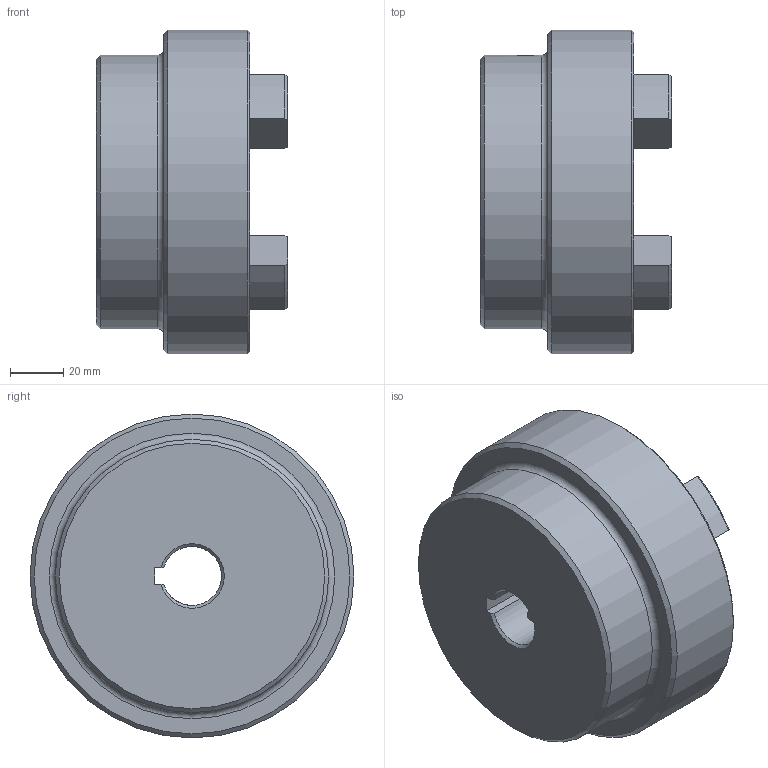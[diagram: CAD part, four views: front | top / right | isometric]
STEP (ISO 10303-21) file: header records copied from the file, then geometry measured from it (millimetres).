
FILE_DESCRIPTION (( 'STEP AP203' ), '1' );
FILE_NAME ('RC5.step', '2024-07-25T13:21:09', ( 'Adlan' ), ( '' ), 'SwSTEP 2.0', 'SolidWorks 2013', '' );
FILE_SCHEMA (( 'CONFIG_CONTROL_DESIGN' ));
Length unit declared in the file: inch
Products named in the file (1): RC5
Bounding box: 72.14 x 122.17 x 122.17 mm (x, y, z)
Volume: 461166.7 mm3; surface area: 59231.1 mm2
Topology: 1 solids, 1 shells, 83 faces, 210 edges, 131 vertices
Faces by surface type: cylinder 33, plane 19, torus 17, cone 14
Full cylindrical faces by diameter (mm): 5.105 x2, 103.124 x1, 122.174 x1
Entity records: 2753 total; most frequent: CARTESIAN_POINT 672, DIRECTION 446, ORIENTED_EDGE 394, EDGE_CURVE 197, AXIS2_PLACEMENT_3D 178, VERTEX_POINT 128, EDGE_LOOP 101, CIRCLE 94
